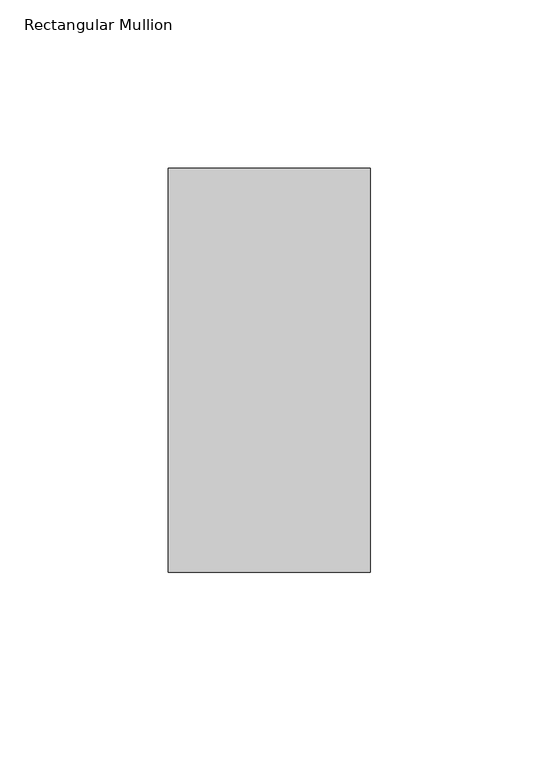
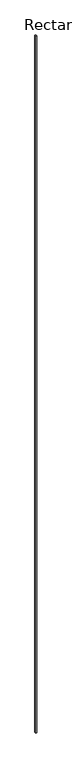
"""IFC4 building model written with IfcOpenShell, lengths in millimetres: member geometry, Rectangular Mullion : Terça."""

from ifc_helpers import new_model, si_unit, frame, origin, place, context, project, spatial, polyline, outline, extrude, source, transform, mapped, element, save


def rectangular_mullion_4fc05f82(model_context):
    return source(origin(), model_context, "Body", "SweptSolid", [
        extrude(outline(polyline([(-60.0, -120.0), (-60.0, 0.0), (0.0, 0.0), (0.0, -120.0), (-60.0, -120.0)])), frame((0.0, 0.0, -46920.4270994), z_axis=(0.0, 0.0, 1.0), x_axis=(1.0, 0.0, 0.0)), (0.0, 0.0, 1.0), 46920.4270994),
    ])


if __name__ == "__main__":
    model = new_model("IFC4")
    model_context = context("Model", 3, world=origin())
    ifc_project = project(units=[si_unit("LENGTHUNIT", "METRE", prefix="MILLI")], contexts=[model_context])
    site = spatial("IfcSite", under=ifc_project)
    building = spatial("IfcBuilding", under=site)
    placement = place(None, origin())
    rectangular_mullion_shape = rectangular_mullion_4fc05f82(model_context)
    element("IfcMember", 1, ObjectType="Rectangular Mullion : Terça", at=placement, inside=building, context=model_context, shape_type="MappedRepresentation", body=[
        mapped(rectangular_mullion_shape, transform((0.0, 0.0, 0.0), x_axis=(1.0, 0.0, 0.0), y_axis=(0.0, 1.0, 0.0), z_axis=(0.0, 0.0, 1.0))),
    ])
    save(model, "model.ifc")
